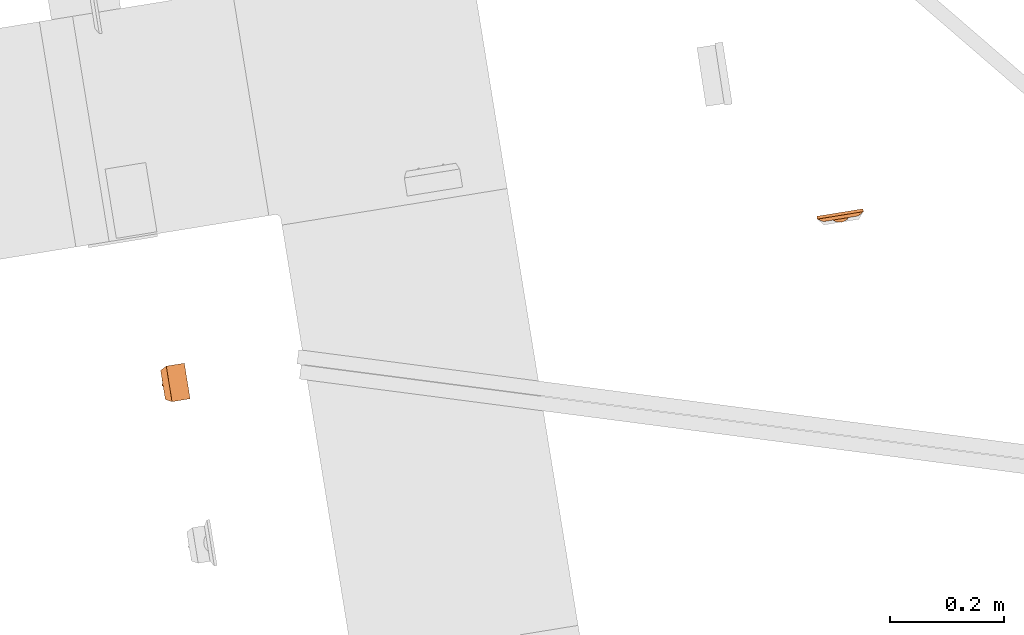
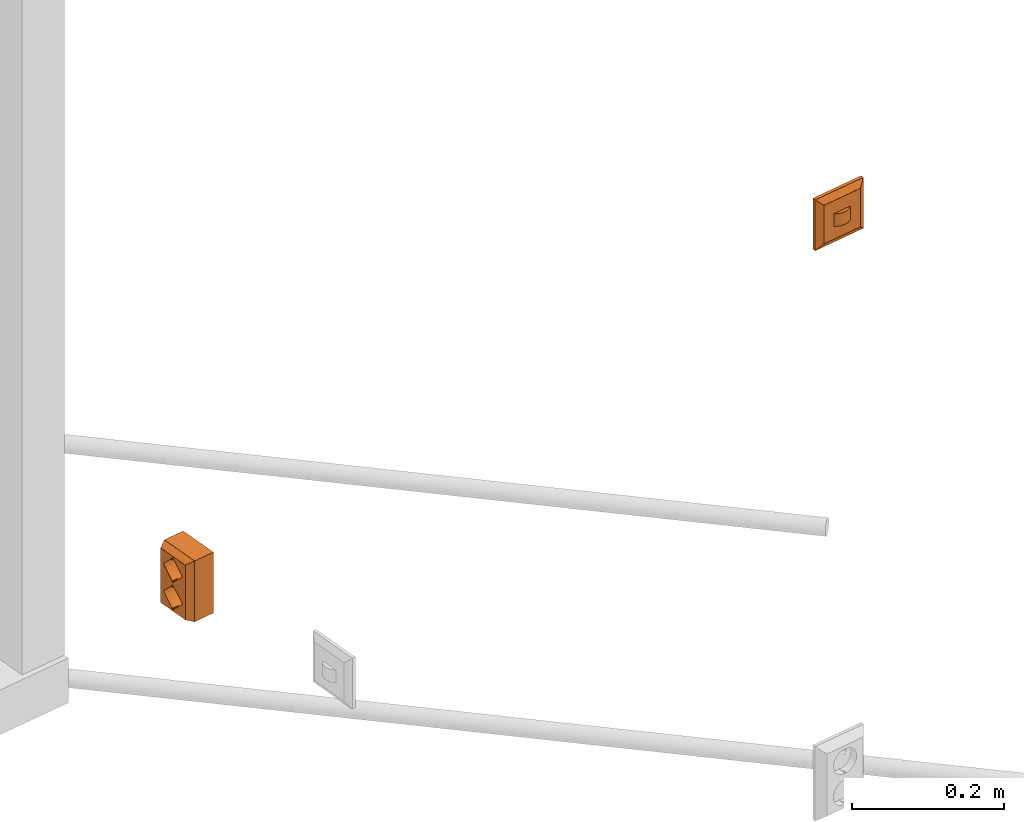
# One storey, part 14 of 33: 2 proxies.
"""IFC2X3 building model written with IfcOpenShell, lengths in millimetres."""

from ifc_helpers import new_model, entity, si_unit, converted_unit, derived_unit, direction, frame, frame_2d, origin, origin_with_axes, origin_2d_with_axis, place, context, subcontext, project, spatial, polyline, circle_curve, parameter, trimmed, segment, composite_curve, rectangle, circle, hollow_circle, outline, extrude, source, transform, mapped, material, type_object, element, save


model = new_model("IFC2X3")

# Units and contexts
plan_context = context("Plan", 3, precision=1e-05, world=origin_with_axes())
model_context = context("Model", 3, precision=0.01, world=origin(), true_north=direction((6.12323399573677e-17, 1.0)))
body_context = subcontext(model_context, "Body", "Model", "MODEL_VIEW")
ifc_project = project(units=[converted_unit("PLANEANGLEUNIT", "DEGREE", entity("IfcPositiveLengthMeasure", 0.0174532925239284), si_unit("PLANEANGLEUNIT", "RADIAN"), dimensions=[0, 0, 0, 0, 0, 0, 0]), si_unit("AREAUNIT", "SQUARE_METRE"), si_unit("LENGTHUNIT", "METRE", prefix="MILLI"), si_unit("MASSUNIT", "GRAM", prefix="KILO"), si_unit("POWERUNIT", "WATT"), si_unit("PRESSUREUNIT", "PASCAL", prefix="KILO"), si_unit("FORCEUNIT", "NEWTON", prefix="KILO"), si_unit("ELECTRICVOLTAGEUNIT", "VOLT"), si_unit("ELECTRICCURRENTUNIT", "AMPERE"), si_unit("THERMODYNAMICTEMPERATUREUNIT", "DEGREE_CELSIUS"), si_unit("TIMEUNIT", "SECOND"), si_unit("VOLUMEUNIT", "CUBIC_METRE"), derived_unit("LINEARVELOCITYUNIT", [(si_unit("LENGTHUNIT", "METRE"), 1), (si_unit("TIMEUNIT", "SECOND"), -1)]), derived_unit("VOLUMETRICFLOWRATEUNIT", [(si_unit("VOLUMEUNIT", "CUBIC_METRE"), 1), (si_unit("TIMEUNIT", "SECOND"), -1)]), derived_unit("THERMALTRANSMITTANCEUNIT", [(si_unit("POWERUNIT", "WATT"), 1), (si_unit("THERMODYNAMICTEMPERATUREUNIT", "KELVIN"), -1), (si_unit("AREAUNIT", "SQUARE_METRE"), -1)]), derived_unit("SOUNDPRESSUREUNIT", [(si_unit("PRESSUREUNIT", "PASCAL"), 1)])], contexts=[model_context, plan_context])

# Site, building, storey
site_placement = place(None, frame((-0.219946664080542, 0.12226179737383, 0.0), z_axis=(0.0, 0.0, 1.0), x_axis=(-0.160236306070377, 0.987078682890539, 0.0)))
site = spatial("IfcSite", under=ifc_project, at=site_placement, Name="Default", CompositionType="ELEMENT")
building_placement = place(site_placement, origin_with_axes())
building = spatial("IfcBuilding", under=site, at=building_placement, CompositionType="ELEMENT")
storey_placement = place(building_placement, frame((0.0, 0.0, 59000.0), z_axis=(0.0, 0.0, 1.0), x_axis=(1.0, 0.0, 0.0)))
storey = spatial("IfcBuildingStorey", under=building, at=storey_placement, Name="Nivå F", CompositionType="ELEMENT", Elevation=59000.0)

# Proxies
ifc_material = material(Name="<Unnamed>")
building_element_proxy_type_1 = type_object("IfcBuildingElementProxyType", Name="Dobbel stikk på vegg 2P+J vert PH:EARTHED-SOCKET-2(VER)", PredefinedType="NOTDEFINED", material=ifc_material)
shared_shape_1 = source(origin(), body_context, "Body", "SweptSolid", [
    extrude(outline(composite_curve([segment(polyline([(-6.66666666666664, -6.66666666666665), (13.3333333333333, -6.66666666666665)]), True, "CONTINUOUS"), segment(trimmed(circle_curve(frame_2d((13.3333333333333, 13.3333333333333), x_axis=(-1.0, 0.0)), 20.0), [parameter(360.0)], [parameter(90.0)], True, "PARAMETER"), False, "CONTINUOUS"), segment(polyline([(-6.66666666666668, 13.3333333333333), (-6.66666666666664, -6.66666666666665)]), True, "CONTINUOUS")], self_intersect=False)), frame((13.3333333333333, 42.8999999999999, 8.65666666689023), z_axis=(0.0, 1.0, 0.0), x_axis=(-1.0, 0.0, 0.0)), (0.0, 0.0, 1.0), 0.199999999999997),
    extrude(outline(composite_curve([segment(polyline([(-6.66666666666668, -6.66666666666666), (13.3333333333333, -6.66666666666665)]), True, "CONTINUOUS"), segment(trimmed(circle_curve(frame_2d((13.3333333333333, 13.3333333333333), x_axis=(0.0, -1.0)), 20.0), [parameter(270.0)], [parameter(0.0)], True, "PARAMETER"), False, "CONTINUOUS"), segment(polyline([(-6.66666666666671, 13.3333333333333), (-6.66666666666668, -6.66666666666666)]), True, "CONTINUOUS")], self_intersect=False)), frame((13.3333333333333, 42.8999999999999, 35.3333333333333), z_axis=(0.0, 1.0, 0.0), x_axis=(0.0, 0.0, -1.0)), (0.0, 0.0, 1.0), 0.199999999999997),
    extrude(outline(composite_curve([segment(polyline([(-6.66666666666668, -6.66666666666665), (13.3333333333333, -6.66666666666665)]), True, "CONTINUOUS"), segment(trimmed(circle_curve(frame_2d((13.3333333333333, 13.3333333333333), x_axis=(-1.0, 0.0)), 20.0), [parameter(0.0)], [parameter(90.0)], True, "PARAMETER"), False, "CONTINUOUS"), segment(polyline([(-6.66666666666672, 13.3333333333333), (-6.66666666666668, -6.66666666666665)]), True, "CONTINUOUS")], self_intersect=False)), frame((-13.3333333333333, 42.8999999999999, 35.3433333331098), z_axis=(0.0, 1.0, 0.0), x_axis=(1.0, 0.0, 0.0)), (0.0, 0.0, 1.0), 0.199999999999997),
    extrude(outline(composite_curve([segment(polyline([(-6.66666666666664, -6.66666666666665), (13.3333333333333, -6.66666666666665)]), True, "CONTINUOUS"), segment(trimmed(circle_curve(frame_2d((13.3333333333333, 13.3333333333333), x_axis=(0.0, -1.0)), 20.0), [parameter(270.0)], [parameter(0.0)], True, "PARAMETER"), False, "CONTINUOUS"), segment(polyline([(-6.66666666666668, 13.3333333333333), (-6.66666666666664, -6.66666666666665)]), True, "CONTINUOUS")], self_intersect=False)), frame((-13.3333333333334, 42.8999999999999, 8.66666666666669), z_axis=(0.0, 1.0, 0.0), x_axis=(0.0, 0.0, 1.0)), (0.0, 0.0, 1.0), 0.199999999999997),
    extrude(outline(composite_curve([segment(polyline([(-6.66666666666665, -6.66666666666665), (13.3333333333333, -6.66666666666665)]), True, "CONTINUOUS"), segment(trimmed(circle_curve(frame_2d((13.3333333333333, 13.3333333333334), x_axis=(-1.0, 0.0)), 20.0), [parameter(360.0)], [parameter(90.0)], True, "PARAMETER"), False, "CONTINUOUS"), segment(polyline([(-6.66666666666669, 13.3333333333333), (-6.66666666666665, -6.66666666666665)]), True, "CONTINUOUS")], self_intersect=False)), frame((13.3333333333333, 42.8999999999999, -35.3433333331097), z_axis=(0.0, 1.0, 0.0), x_axis=(-1.0, 0.0, 0.0)), (0.0, 0.0, 1.0), 0.199999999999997),
    extrude(outline(composite_curve([segment(polyline([(-6.66666666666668, -6.66666666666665), (13.3333333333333, -6.66666666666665)]), True, "CONTINUOUS"), segment(trimmed(circle_curve(frame_2d((13.3333333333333, 13.3333333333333), x_axis=(0.0, -1.0)), 20.0), [parameter(270.0)], [parameter(0.0)], True, "PARAMETER"), False, "CONTINUOUS"), segment(polyline([(-6.66666666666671, 13.3333333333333), (-6.66666666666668, -6.66666666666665)]), True, "CONTINUOUS")], self_intersect=False)), frame((13.3333333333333, 42.8999999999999, -8.66666666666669), z_axis=(0.0, 1.0, 0.0), x_axis=(0.0, 0.0, -1.0)), (0.0, 0.0, 1.0), 0.199999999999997),
    extrude(outline(composite_curve([segment(polyline([(-6.66666666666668, -6.66666666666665), (13.3333333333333, -6.66666666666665)]), True, "CONTINUOUS"), segment(trimmed(circle_curve(frame_2d((13.3333333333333, 13.3333333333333), x_axis=(-1.0, 0.0)), 20.0), [parameter(0.0)], [parameter(90.0)], True, "PARAMETER"), False, "CONTINUOUS"), segment(polyline([(-6.66666666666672, 13.3333333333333), (-6.66666666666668, -6.66666666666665)]), True, "CONTINUOUS")], self_intersect=False)), frame((-13.3333333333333, 42.8999999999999, -8.65666666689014), z_axis=(0.0, 1.0, 0.0), x_axis=(1.0, 0.0, 0.0)), (0.0, 0.0, 1.0), 0.199999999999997),
    extrude(outline(composite_curve([segment(polyline([(-6.66666666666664, -6.66666666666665), (13.3333333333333, -6.66666666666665)]), True, "CONTINUOUS"), segment(trimmed(circle_curve(frame_2d((13.3333333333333, 13.3333333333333), x_axis=(0.0, -1.0)), 20.0), [parameter(270.0)], [parameter(0.0)], True, "PARAMETER"), False, "CONTINUOUS"), segment(polyline([(-6.66666666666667, 13.3333333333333), (-6.66666666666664, -6.66666666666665)]), True, "CONTINUOUS")], self_intersect=False)), frame((-13.3333333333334, 42.8999999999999, -35.3333333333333), z_axis=(0.0, 1.0, 0.0), x_axis=(0.0, 0.0, 1.0)), (0.0, 0.0, 1.0), 0.199999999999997),
    extrude(rectangle(XDim=9.99999999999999, YDim=0.999999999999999, at=frame_2d((0.0, 1.11022302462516e-15), x_axis=(1.0, 0.0))), frame((0.0, 40.0, 4.4), z_axis=(0.0, 0.0, 1.0), x_axis=(0.0, -1.0, 0.0)), (0.0, 0.0, 1.0), 0.2),
    extrude(rectangle(XDim=21.5, YDim=0.999999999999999, at=frame_2d((0.0, 7.32747196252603e-15), x_axis=(1.0, 0.0))), frame((0.0, 32.25, 2.4), z_axis=(0.0, 0.0, 1.0), x_axis=(0.0, -1.0, 0.0)), (0.0, 0.0, 1.0), 0.2),
    extrude(rectangle(XDim=9.99999999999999, YDim=0.999999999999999, at=frame_2d((0.0, 1.11022302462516e-15), x_axis=(1.0, 0.0))), frame((0.0, 40.0, 39.4), z_axis=(0.0, 0.0, 1.0), x_axis=(0.0, -1.0, 0.0)), (0.0, 0.0, 1.0), 0.199999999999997),
    extrude(rectangle(XDim=21.5, YDim=0.999999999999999, at=frame_2d((0.0, 7.32747196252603e-15), x_axis=(1.0, 0.0))), frame((0.0, 32.25, 41.4), z_axis=(0.0, 0.0, 1.0), x_axis=(0.0, -1.0, 0.0)), (0.0, 0.0, 1.0), 0.199999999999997),
    extrude(rectangle(XDim=9.99999999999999, YDim=0.999999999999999, at=frame_2d((0.0, 1.11022302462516e-15), x_axis=(1.0, 0.0))), frame((0.0, 40.0, -39.6), z_axis=(0.0, 0.0, 1.0), x_axis=(0.0, -1.0, 0.0)), (0.0, 0.0, 1.0), 0.199999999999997),
    extrude(rectangle(XDim=21.5, YDim=0.999999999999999, at=frame_2d((0.0, 7.32747196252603e-15), x_axis=(1.0, 0.0))), frame((0.0, 32.25, -41.6), z_axis=(0.0, 0.0, 1.0), x_axis=(0.0, -1.0, 0.0)), (0.0, 0.0, 1.0), 0.199999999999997),
    extrude(rectangle(XDim=9.99999999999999, YDim=0.999999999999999, at=frame_2d((0.0, 1.11022302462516e-15), x_axis=(1.0, 0.0))), frame((0.0, 40.0, -4.59999999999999), z_axis=(0.0, 0.0, 1.0), x_axis=(0.0, -1.0, 0.0)), (0.0, 0.0, 1.0), 0.2),
    extrude(rectangle(XDim=21.5, YDim=0.999999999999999, at=frame_2d((0.0, 7.32747196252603e-15), x_axis=(1.0, 0.0))), frame((0.0, 32.25, -2.6), z_axis=(0.0, 0.0, 1.0), x_axis=(0.0, -1.0, 0.0)), (0.0, 0.0, 1.0), 0.2),
    extrude(rectangle(XDim=0.199999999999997, YDim=40.0, at=frame_2d((4.2257863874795e-15, 1.77635683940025e-15), x_axis=(1.0, 0.0))), frame((0.0, 43.0, 42.0), z_axis=(0.0, 0.0, 1.0), x_axis=(0.0, 1.0, 0.0)), (0.0, 0.0, 1.0), 1.99999999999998),
    extrude(rectangle(XDim=0.199999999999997, YDim=40.0, at=frame_2d((4.2257863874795e-15, 1.77635683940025e-15), x_axis=(1.0, 0.0))), frame((0.0, 43.0, 0.0), z_axis=(0.0, 0.0, 1.0), x_axis=(0.0, 1.0, 0.0)), (0.0, 0.0, 1.0), 1.99999999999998),
    extrude(rectangle(XDim=0.199999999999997, YDim=40.0, at=frame_2d((4.2257863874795e-15, 1.77635683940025e-15), x_axis=(1.0, 0.0))), frame((0.0, 43.0, -2.0), z_axis=(0.0, 0.0, 1.0), x_axis=(0.0, 1.0, 0.0)), (0.0, 0.0, 1.0), 1.99999999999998),
    extrude(rectangle(XDim=0.199999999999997, YDim=40.0, at=frame_2d((4.2257863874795e-15, 1.77635683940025e-15), x_axis=(1.0, 0.0))), frame((0.0, 43.0, -44.0), z_axis=(0.0, 0.0, 1.0), x_axis=(0.0, 1.0, 0.0)), (0.0, 0.0, 1.0), 1.99999999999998),
    extrude(rectangle(XDim=0.199999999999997, YDim=5.75, at=frame_2d((4.2257863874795e-15, 0.0), x_axis=(1.0, 0.0))), frame((-22.875, 43.0, -44.0), z_axis=(0.0, 0.0, 1.0), x_axis=(0.0, 1.0, 0.0)), (0.0, 0.0, 1.0), 87.9999999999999),
    extrude(outline(polyline([(-18.9908791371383, -25.8475629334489), (-5.60945544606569, -25.8475629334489), (16.5201031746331, 20.6554760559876), (8.0802314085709, 31.0396498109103), (-18.9908791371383, -25.8475629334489)])), frame((0.0, 37.5413802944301, -46.5910366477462), z_axis=(0.0, -0.413802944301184, 0.910366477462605), x_axis=(-0.42970016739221, 0.822035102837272, 0.373652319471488)), (0.0, 0.0, 1.0), 0.200000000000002),
    extrude(outline(polyline([(-25.75, -6.04152298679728), (25.75, -6.04152298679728), (31.5, 6.04152298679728), (-31.5, 6.04152298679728), (-25.75, -6.04152298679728)])), frame((0.0, 37.4586197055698, 46.4089633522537), z_axis=(0.0, 0.413802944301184, 0.910366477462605), x_axis=(-1.0, 0.0, 0.0)), (0.0, 0.0, 1.0), 0.200000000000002),
    extrude(rectangle(XDim=0.199999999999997, YDim=5.75, at=frame_2d((4.2257863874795e-15, 0.0), x_axis=(1.0, 0.0))), frame((22.875, 43.0, -44.0), z_axis=(0.0, 0.0, 1.0), x_axis=(0.0, 1.0, 0.0)), (0.0, 0.0, 1.0), 87.9999999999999),
    extrude(rectangle(XDim=32.0, YDim=62.9999999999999, at=frame_2d((1.77635683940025e-15, 0.0), x_axis=(1.0, 0.0))), frame((0.0, 16.0, 48.8999999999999), z_axis=(0.0, 0.0, 1.0), x_axis=(0.0, -1.0, 0.0)), (0.0, 0.0, 1.0), 0.199999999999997),
    extrude(outline(polyline([(-49.0, -6.2060957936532), (49.0, -6.2060957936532), (44.0, 6.20609579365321), (-44.0, 6.20609579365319), (-49.0, -6.2060957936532)])), frame((-28.7136225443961, 37.5463254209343, 0.0), z_axis=(0.886225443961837, -0.463254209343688, 0.0), x_axis=(0.0, 0.0, -1.0)), (0.0, 0.0, 1.0), 0.199999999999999),
    extrude(outline(polyline([(-49.0, -6.2060957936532), (49.0, -6.20609579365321), (44.0, 6.20609579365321), (-44.0, 6.20609579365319), (-49.0, -6.2060957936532)])), frame((28.5363774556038, 37.4536745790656, 0.0), z_axis=(0.886225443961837, 0.463254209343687, 0.0), x_axis=(0.0, 0.0, -1.0)), (0.0, 0.0, 1.0), 0.199999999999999),
    extrude(rectangle(XDim=32.0, YDim=62.9999999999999, at=frame_2d((1.77635683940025e-15, 0.0), x_axis=(1.0, 0.0))), frame((0.0, 16.0, -49.0999999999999), z_axis=(0.0, 0.0, 1.0), x_axis=(0.0, -1.0, 0.0)), (0.0, 0.0, 1.0), 0.199999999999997),
    extrude(rectangle(XDim=0.200000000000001, YDim=32.0, at=frame_2d((2.11636264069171e-15, 0.0), x_axis=(1.0, 0.0))), frame((31.5, 16.0, -49.0)), (0.0, 0.0, 1.0), 97.9999999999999),
    extrude(rectangle(XDim=0.200000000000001, YDim=32.0, at=frame_2d((2.11636264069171e-15, 0.0), x_axis=(1.0, 0.0))), frame((-31.5, 16.0, -49.0)), (0.0, 0.0, 1.0), 97.9999999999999),
    extrude(rectangle(XDim=0.2, YDim=62.9999999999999, at=origin_2d_with_axis()), frame((0.0, 0.0, -49.0), z_axis=(0.0, 0.0, 1.0), x_axis=(0.0, 1.0, 0.0)), (0.0, 0.0, 1.0), 97.9999999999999),
    extrude(circle(Radius=2.5, at=frame_2d((0.0, -4.22994972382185e-15), x_axis=(1.0, 0.0))), frame((10.0, 21.450000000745, 22.0), z_axis=(0.0, 1.0, 0.0), x_axis=(0.0, 0.0, 1.0)), (0.0, 0.0, 1.0), 0.200000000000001),
    extrude(circle(Radius=2.5, at=frame_2d((0.0, -4.22994972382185e-15), x_axis=(1.0, 0.0))), frame((-10.0, 21.450000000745, 22.0), z_axis=(0.0, 1.0, 0.0), x_axis=(0.0, 0.0, 1.0)), (0.0, 0.0, 1.0), 0.200000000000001),
    extrude(circle(Radius=2.5, at=frame_2d((0.0, -4.22994972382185e-15), x_axis=(1.0, 0.0))), frame((10.0, 21.450000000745, -22.0), z_axis=(0.0, 1.0, 0.0), x_axis=(0.0, 0.0, 1.0)), (0.0, 0.0, 1.0), 0.200000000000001),
    extrude(circle(Radius=2.5, at=frame_2d((0.0, -4.22994972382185e-15), x_axis=(1.0, 0.0))), frame((-10.0, 21.450000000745, -22.0), z_axis=(0.0, 1.0, 0.0), x_axis=(0.0, 0.0, 1.0)), (0.0, 0.0, 1.0), 0.200000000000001),
    extrude(circle(Radius=20.0, at=frame_2d((-4.22994972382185e-15, -3.23108914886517e-14), x_axis=(1.0, 0.0))), frame((0.0, 21.4, 22.0), z_axis=(0.0, 1.0, 0.0), x_axis=(0.0, 0.0, 1.0)), (0.0, 0.0, 1.0), 0.200000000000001),
    extrude(circle(Radius=20.0, at=frame_2d((4.22994972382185e-15, -3.23108914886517e-14), x_axis=(1.0, 0.0))), frame((0.0, 21.4, -22.0), z_axis=(0.0, 1.0, 0.0), x_axis=(0.0, 0.0, 1.0)), (0.0, 0.0, 1.0), 0.200000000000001),
    extrude(outline(composite_curve([segment(trimmed(circle_curve(frame_2d((-0.800000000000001, 0.799999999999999), x_axis=(1.0, 0.0)), 2.0), [parameter(270.0)], [parameter(0.0)], True, "PARAMETER"), True, "CONTINUOUS"), segment(polyline([(1.20000000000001, 0.799999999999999), (0.400000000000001, 0.799999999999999)]), True, "CONTINUOUS"), segment(trimmed(circle_curve(frame_2d((-0.800000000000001, 0.799999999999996), x_axis=(0.0, -1.0)), 1.2), [parameter(0.0)], [parameter(89.9999999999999)], True, "PARAMETER"), False, "CONTINUOUS"), segment(polyline([(-0.799999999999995, -0.400000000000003), (-0.799999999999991, -1.2)]), True, "CONTINUOUS")], self_intersect=False)), frame((-1.5, 43.7999999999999, 3.7), z_axis=(1.0, 0.0, 0.0), x_axis=(0.0, 1.0, 0.0)), (0.0, 0.0, 1.0), 2.0),
    extrude(outline(composite_curve([segment(polyline([(-1.2, -0.800000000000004), (-0.400000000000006, -0.800000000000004)]), True, "CONTINUOUS"), segment(trimmed(circle_curve(frame_2d((0.799999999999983, -0.799999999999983), x_axis=(-1.0, 0.0)), 1.19999999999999), [parameter(269.999999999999)], [parameter(0.0)], True, "PARAMETER"), False, "CONTINUOUS"), segment(polyline([(0.799999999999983, 0.400000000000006), (0.799999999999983, 1.2)]), True, "CONTINUOUS"), segment(trimmed(circle_curve(frame_2d((0.79999999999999, -0.79999999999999), x_axis=(0.0, 1.0)), 1.99999999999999), [parameter(0.0)], [parameter(90.0000000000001)], True, "PARAMETER"), True, "CONTINUOUS")], self_intersect=False)), frame((-0.5, 43.8, 40.2999999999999), z_axis=(1.0, 0.0, 0.0), x_axis=(0.0, 0.0, -1.0)), (0.0, 0.0, 1.0), 2.0),
    extrude(outline(composite_curve([segment(trimmed(circle_curve(frame_2d((-0.799999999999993, 0.800000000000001), x_axis=(1.0, 0.0)), 1.99999999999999), [parameter(270.0)], [parameter(0.0)], True, "PARAMETER"), True, "CONTINUOUS"), segment(polyline([(1.2, 0.800000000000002), (0.400000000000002, 0.799999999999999)]), True, "CONTINUOUS"), segment(trimmed(circle_curve(frame_2d((-0.799999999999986, 0.799999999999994), x_axis=(0.0, -1.0)), 1.19999999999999), [parameter(0.0)], [parameter(90.0000000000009)], True, "PARAMETER"), False, "CONTINUOUS"), segment(polyline([(-0.800000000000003, -0.399999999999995), (-0.799999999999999, -1.19999999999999)]), True, "CONTINUOUS")], self_intersect=False)), frame((-1.5, 43.8, -40.3), z_axis=(1.0, 0.0, 0.0), x_axis=(0.0, 1.0, 0.0)), (0.0, 0.0, 1.0), 2.0),
    extrude(outline(composite_curve([segment(polyline([(-1.2, -0.800000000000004), (-0.399999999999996, -0.800000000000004)]), True, "CONTINUOUS"), segment(trimmed(circle_curve(frame_2d((0.800000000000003, -0.800000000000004), x_axis=(-1.0, 0.0)), 1.2), [parameter(270.0)], [parameter(0.0)], True, "PARAMETER"), False, "CONTINUOUS"), segment(polyline([(0.799999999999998, 0.399999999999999), (0.799999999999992, 1.2)]), True, "CONTINUOUS"), segment(trimmed(circle_curve(frame_2d((0.800000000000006, -0.800000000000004), x_axis=(0.0, 1.0)), 2.0), [parameter(0.0)], [parameter(89.9999999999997)], True, "PARAMETER"), True, "CONTINUOUS")], self_intersect=False)), frame((-0.5, 43.8, -3.7), z_axis=(1.0, 0.0, 0.0), x_axis=(0.0, 0.0, -1.0)), (0.0, 0.0, 1.0), 2.0),
    extrude(hollow_circle(Radius=20.0, WallThickness=0.199999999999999, at=frame_2d((-4.22994972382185e-15, -3.23108914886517e-14), x_axis=(1.0, 0.0))), frame((0.0, 21.5, 22.0), z_axis=(0.0, 1.0, 0.0), x_axis=(0.0, 0.0, 1.0)), (0.0, 0.0, 1.0), 21.5),
    extrude(hollow_circle(Radius=20.0, WallThickness=0.199999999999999, at=frame_2d((4.22994972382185e-15, -3.23108914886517e-14), x_axis=(1.0, 0.0))), frame((0.0, 21.5, -22.0), z_axis=(0.0, 1.0, 0.0), x_axis=(0.0, 0.0, 1.0)), (0.0, 0.0, 1.0), 21.5),
])
proxy_1_placement = place(storey_placement, frame((770744.502944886, -503829.729552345, 1100.0), z_axis=(0.0, 0.0, 1.0), x_axis=(1.0, 0.0, 0.0)))
element("IfcBuildingElementProxy", 1, at=proxy_1_placement, inside=storey, type_object=building_element_proxy_type_1, material=ifc_material, Name="Dobbel stikk på vegg 2P+J vert PH:EARTHED-SOCKET-2(VER)", ObjectType="Dobbel stikk på vegg 2P+J vert PH:EARTHED-SOCKET-2(VER)", context=body_context, shape_type="MappedRepresentation", body=[
    mapped(shared_shape_1, transform((0.0, 0.0, 0.0), scale=1.0)),
])
building_element_proxy_type_2 = type_object("IfcBuildingElementProxyType", Name="Move-detector-2-0002:MOVE-DETECTOR-2", PredefinedType="NOTDEFINED", material=ifc_material)
shared_shape_2 = source(origin(), body_context, "Body", "SweptSolid", [
    extrude(outline(polyline([(-31.1151497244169, -27.3285099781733), (-15.7528582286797, -27.3285099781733), (24.6057041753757, 19.7372572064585), (22.2623037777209, 34.9197627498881), (-31.1151497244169, -27.3285099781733)])), frame((35.9485504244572, 7.91425070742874, 0.0), z_axis=(0.514495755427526, 0.857492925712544, 0.0), x_axis=(-0.650944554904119, 0.390566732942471, 0.650944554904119)), (0.0, 0.0, 1.0), 0.200000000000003),
    extrude(outline(polyline([(-41.0, -5.8309518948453), (41.0, -5.8309518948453), (31.0, 5.8309518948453), (-31.0, 5.8309518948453), (-41.0, -5.8309518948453)])), frame((-35.9485504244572, 7.91425070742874, 0.0), z_axis=(-0.514495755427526, 0.857492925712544, 0.0), x_axis=(0.0, 0.0, 1.0)), (0.0, 0.0, 1.0), 0.2),
    extrude(outline(polyline([(15.7528582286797, -27.3285099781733), (31.1151497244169, -27.3285099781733), (-22.2623037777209, 34.9197627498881), (-24.6057041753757, 19.7372572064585), (15.7528582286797, -27.3285099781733)])), frame((0.0, 7.91425070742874, -35.9485504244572), z_axis=(0.0, 0.857492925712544, -0.514495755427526), x_axis=(0.650944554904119, -0.390566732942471, -0.65094455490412)), (0.0, 0.0, 1.0), 0.200000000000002),
    extrude(outline(polyline([(-31.0, -5.8309518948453), (31.0, -5.83095189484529), (41.0, 5.83095189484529), (-41.0, 5.8309518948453), (-31.0, -5.8309518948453)])), frame((0.0, 7.91425070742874, 35.9485504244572), z_axis=(0.0, 0.857492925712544, 0.514495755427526), x_axis=(-1.0, 0.0, 0.0)), (0.0, 0.0, 1.0), 0.199999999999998),
    extrude(rectangle(XDim=0.200000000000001, YDim=61.9999999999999, at=origin_2d_with_axis()), frame((0.0, 11.0, -31.0), z_axis=(0.0, 0.0, 1.0), x_axis=(0.0, 1.0, 0.0)), (0.0, 0.0, 1.0), 61.9999999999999),
    extrude(outline(composite_curve([segment(trimmed(circle_curve(frame_2d((-9.79999999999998, 9.79999999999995), x_axis=(1.0, 0.0)), 20.0), [parameter(270.0)], [parameter(0.0)], True, "PARAMETER"), True, "CONTINUOUS"), segment(polyline([(10.2, 9.79999999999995), (9.39999999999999, 9.79999999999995)]), True, "CONTINUOUS"), segment(trimmed(circle_curve(frame_2d((-9.79999999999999, 9.79999999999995), x_axis=(0.0, -1.0)), 19.2), [parameter(0.0)], [parameter(90.0000000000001)], True, "PARAMETER"), False, "CONTINUOUS"), segment(polyline([(-9.79999999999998, -9.40000000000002), (-9.79999999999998, -10.2)]), True, "CONTINUOUS")], self_intersect=False)), frame((0.0, 10.8592929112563, -10.0), z_axis=(0.0, 0.0, 1.0), x_axis=(-0.707106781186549, 0.707106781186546, 0.0)), (0.0, 0.0, 1.0), 20.0),
    extrude(outline(composite_curve([segment(trimmed(circle_curve(frame_2d((-10.0, 10.0), x_axis=(1.0, 0.0)), 20.0), [parameter(270.0)], [parameter(0.0)], True, "PARAMETER"), True, "CONTINUOUS"), segment(polyline([(10.0, 10.0), (-10.0, -10.0)]), True, "CONTINUOUS")], self_intersect=False)), frame((0.0, 11.1421356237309, -10.1), z_axis=(0.0, 0.0, 1.0), x_axis=(-0.707106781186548, 0.707106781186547, 0.0)), (0.0, 0.0, 1.0), 0.199999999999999),
    extrude(outline(composite_curve([segment(trimmed(circle_curve(frame_2d((-10.0, 10.0), x_axis=(1.0, 0.0)), 20.0), [parameter(270.0)], [parameter(0.0)], True, "PARAMETER"), True, "CONTINUOUS"), segment(polyline([(10.0, 10.0), (-10.0, -10.0)]), True, "CONTINUOUS")], self_intersect=False)), frame((0.0, 11.1421356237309, 9.89999999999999), z_axis=(0.0, 0.0, 1.0), x_axis=(-0.707106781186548, 0.707106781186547, 0.0)), (0.0, 0.0, 1.0), 0.199999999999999),
    extrude(rectangle(XDim=81.9999999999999, YDim=4.99999999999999, at=origin_2d_with_axis()), frame((0.0, 2.5, -41.0)), (0.0, 0.0, 1.0), 81.9999999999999),
])
proxy_2_placement = place(storey_placement, frame((770852.619644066, -505006.233374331, 1100.0), z_axis=(0.0, 0.0, 1.0), x_axis=(0.0, 1.0, 0.0)))
element("IfcBuildingElementProxy", 2, at=proxy_2_placement, inside=storey, type_object=building_element_proxy_type_2, material=ifc_material, Name="Move-detector-2-0002:MOVE-DETECTOR-2", ObjectType="Move-detector-2-0002:MOVE-DETECTOR-2", context=body_context, shape_type="MappedRepresentation", body=[
    mapped(shared_shape_2, transform((0.0, 0.0, 0.0), scale=1.0)),
])

save(model, "model.ifc")
